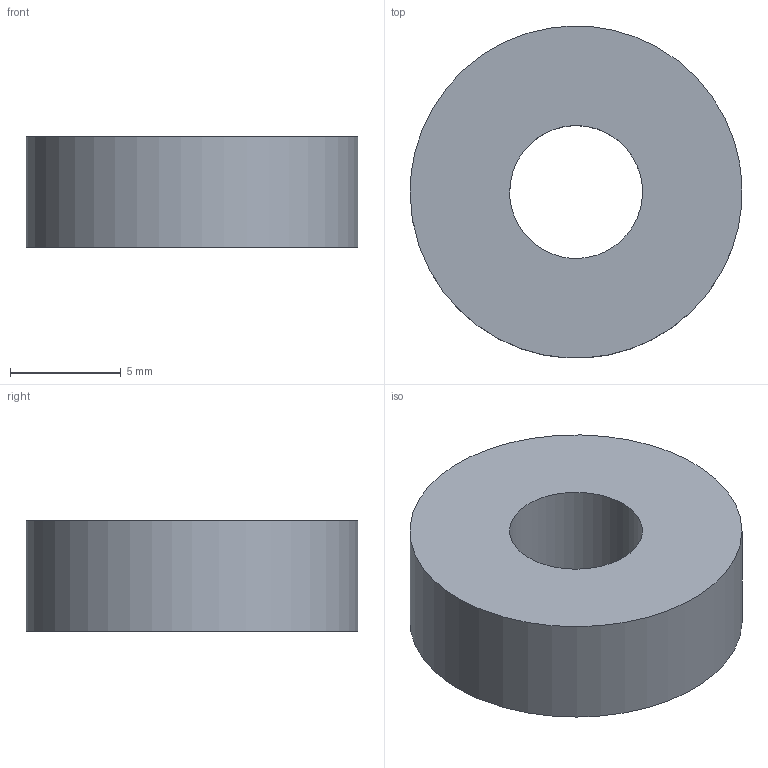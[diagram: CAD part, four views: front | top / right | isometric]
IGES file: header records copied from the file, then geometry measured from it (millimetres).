
Global section: file name: 6mm_bearing_cheap v1; native system: unknown; preprocessor: unknown; author: unknown; organization: unknown; date: 20200329.203535; units: millimetre
Bounding box: 14.99 x 14.98 x 5 mm (x, y, z)
Volume: 743.3 mm3; surface area: 627.4 mm2
Topology: 1 solids, 1 shells, 4 faces, 6 edges, 4 vertices
Faces by surface type: bspline 4
